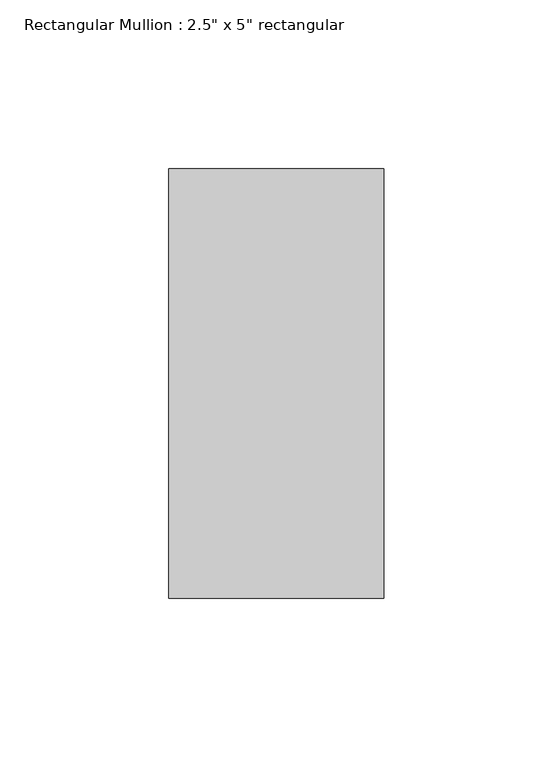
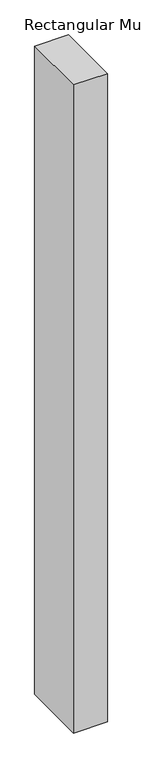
"""IFC4 building model written with IfcOpenShell, lengths in millimetres: member geometry."""

from ifc_helpers import new_model, si_unit, frame, origin, place, context, project, spatial, polyline, outline, extrude, source, transform, mapped, element, save


def member_787be9c5(model_context):
    return source(origin(), model_context, "Body", "SweptSolid", [
        extrude(outline(polyline([(0.0, 63.5), (0.0, -63.5), (-63.5, -63.5), (-63.5, 63.5), (0.0, 63.5)])), frame((0.0, 0.0, -1290.6983604), z_axis=(0.0, 0.0, 1.0), x_axis=(1.0, 0.0, 0.0)), (0.0, 0.0, 1.0), 1290.6983604),
    ])


if __name__ == "__main__":
    model = new_model("IFC4")
    model_context = context("Model", 3, world=origin())
    ifc_project = project(units=[si_unit("LENGTHUNIT", "METRE", prefix="MILLI")], contexts=[model_context])
    site = spatial("IfcSite", under=ifc_project)
    building = spatial("IfcBuilding", under=site)
    placement = place(None, origin())
    member_shape = member_787be9c5(model_context)
    element("IfcMember", 1, ObjectType="Rectangular Mullion : 2.5\" x 5\" rectangular", at=placement, inside=building, context=model_context, shape_type="MappedRepresentation", body=[
        mapped(member_shape, transform((0.0, 0.0, 0.0), x_axis=(1.0, 0.0, 0.0), y_axis=(0.0, 1.0, 0.0), z_axis=(0.0, 0.0, 1.0))),
    ])
    save(model, "model.ifc")
